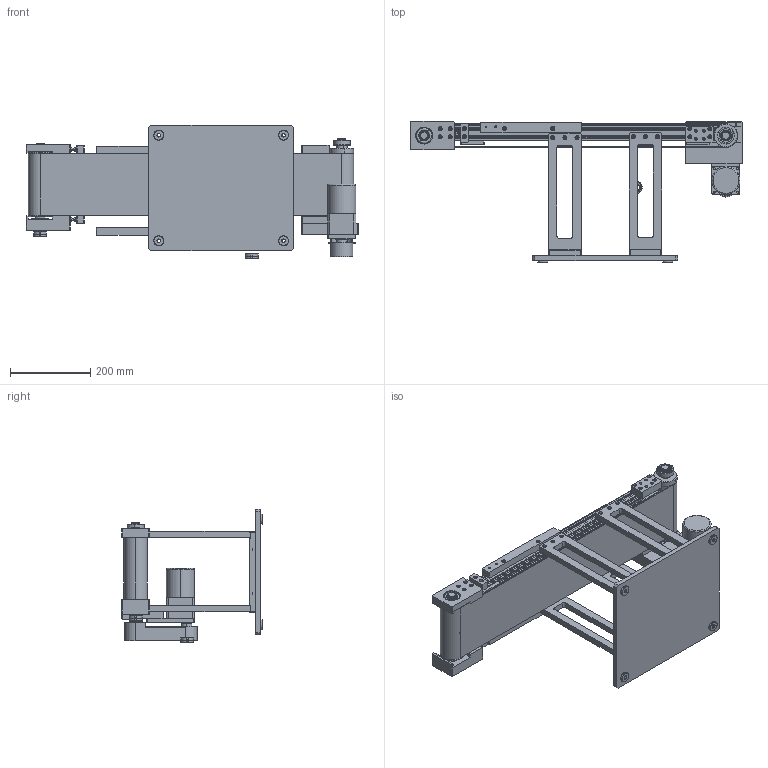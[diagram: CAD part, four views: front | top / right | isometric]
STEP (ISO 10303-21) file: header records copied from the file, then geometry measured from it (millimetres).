
FILE_DESCRIPTION(/* description */ (''),/* implementation_level */ '2;1');
FILE_NAME(/* name */ 'beltconveyor_a116_w150_l800.stp',/* time_stamp */ '2025-01-11T00:38:18+08:00',/* author */ (''),/* organization */ (''),/* preprocessor_version */ 'ST-DEVELOPER v16.7',/* originating_system */ 'SIEMENS PLM Software NX 12.0',/* authorisation */ '');
FILE_SCHEMA (('AUTOMOTIVE_DESIGN { 1 0 10303 214 3 1 1 1 }'));
Products named in the file (29): nNUT-CT-6; bSTBB6-25; F12146-WW-SS0-013; F12146-WW-SS0-001; M7IX15G4G6A-MX7G20MA; F12146-WW-SS0-008; F12146-WW-SS0-004; F12146-WW-SS0-002; F12146-WW-SS0-007; F12146-WW-SS0-016; TTPA25T5100_B_N10_TTPA25T5100-B-N10; HFS5-4040-800_HFS5-4040-1500; STWN20_STWN20; F12146-WW-SS0-009; HLB20; F12146-WW-SS0-011; TTPA25T5100_A_N14_TTPA25T5100-A-N14; HLBM20_HLBM20; B7004_B7004; LA39-B; F12146-WW-SS0-005; F12146-WW-SS0-010; F12146-WW-SS0-003; B6004ZZ; WSSB25_8_5_WSSB25-8-5; F12146-WW-SS0-006; LA05-B; STBB6-25_STBB6-25; beltconveyor_a116_w150_l800
Assembly tree (47 placements, depth 3):
  beltconveyor_a116_w150_l800
    LA05-B
    F12146-WW-SS0-006
    WSSB25_8_5_WSSB25-8-5  x4
    B6004ZZ  x3
    F12146-WW-SS0-003  x4
    F12146-WW-SS0-010  x2
    F12146-WW-SS0-005
    LA39-B  x2
    B7004_B7004  x3
    STBB6-25_STBB6-25  x2
      bSTBB6-25
      nNUT-CT-6
    HLBM20_HLBM20
    TTPA25T5100_A_N14_TTPA25T5100-A-N14
    F12146-WW-SS0-011  x2
    HLB20  x2
    F12146-WW-SS0-009
    STWN20_STWN20  x2
    HFS5-4040-800_HFS5-4040-1500  x2
    TTPA25T5100_B_N10_TTPA25T5100-B-N10
    F12146-WW-SS0-016  x2
    F12146-WW-SS0-007
    F12146-WW-SS0-002  x2
    F12146-WW-SS0-004
    F12146-WW-SS0-008
    M7IX15G4G6A-MX7G20MA
    F12146-WW-SS0-001
    F12146-WW-SS0-013
Bounding box: 825 x 350 x 331.47 mm (x, y, z)
Volume: 6604840.3 mm3; surface area: 2222455.6 mm2
Topology: 119 solids, 119 shells, 3940 faces, 10482 edges, 6844 vertices
Faces by surface type: plane 1689, cylinder 1171, extrusion 738, cone 248, torus 90, sphere 4
Entity records: 82658 total; most frequent: CARTESIAN_POINT 21699, ORIENTED_EDGE 12884, DIRECTION 11639, EDGE_CURVE 6442, VERTEX_POINT 4222, AXIS2_PLACEMENT_3D 4116, VECTOR 3407, LINE 3038
